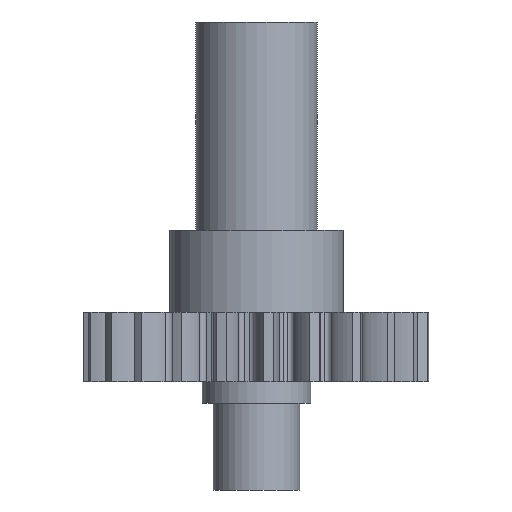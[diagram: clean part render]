
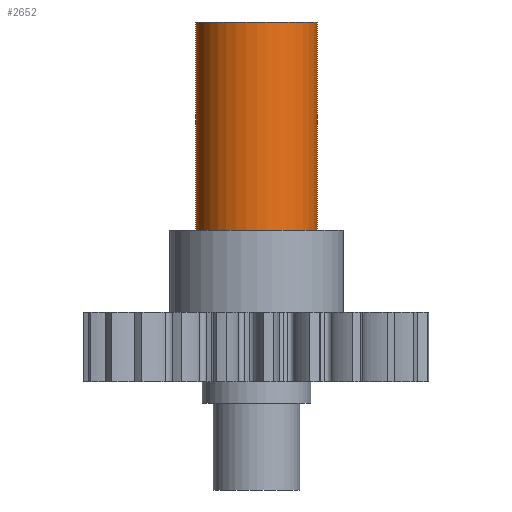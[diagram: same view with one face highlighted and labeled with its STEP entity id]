
A CAD part, front view. The second image highlights one B-rep face of the part: STEP entity #2652.
In plain terms, the highlighted cylindrical face has radius 4.445 mm (diameter 8.89 mm), a full revolution.
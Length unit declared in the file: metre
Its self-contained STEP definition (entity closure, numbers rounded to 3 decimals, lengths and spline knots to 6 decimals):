
#155=CIRCLE('',#2821,0.004445);
#156=CIRCLE('',#2822,0.004445);
#349=CYLINDRICAL_SURFACE('',#2820,0.004445);
#453=ORIENTED_EDGE('',*,*,#1315,.T.);
#454=ORIENTED_EDGE('',*,*,#1316,.F.);
#1315=EDGE_CURVE('',#1745,#1745,#155,.T.);
#1316=EDGE_CURVE('',#1746,#1746,#156,.T.);
#1745=VERTEX_POINT('',#3882);
#1746=VERTEX_POINT('',#3884);
#2319=EDGE_LOOP('',(#453));
#2320=EDGE_LOOP('',(#454));
#2481=FACE_BOUND('',#2319,.T.);
#2482=FACE_BOUND('',#2320,.T.);
#2652=ADVANCED_FACE('',(#2481,#2482),#349,.T.);
#2820=AXIS2_PLACEMENT_3D('',#3880,#3132,#3133);
#2821=AXIS2_PLACEMENT_3D('',#3881,#3134,#3135);
#2822=AXIS2_PLACEMENT_3D('',#3883,#3136,#3137);
#3132=DIRECTION('',(0.,0.,1.));
#3133=DIRECTION('',(1.,0.,0.));
#3134=DIRECTION('',(0.,0.,1.));
#3135=DIRECTION('',(1.,0.,0.));
#3136=DIRECTION('',(0.,0.,1.));
#3137=DIRECTION('',(1.,0.,0.));
#3880=CARTESIAN_POINT('',(0.,0.,0.01905));
#3881=CARTESIAN_POINT('',(0.,0.,0.01905));
#3882=CARTESIAN_POINT('',(0.004445,0.,0.01905));
#3883=CARTESIAN_POINT('',(0.,0.,0.03429));
#3884=CARTESIAN_POINT('',(0.004445,0.,0.03429));
